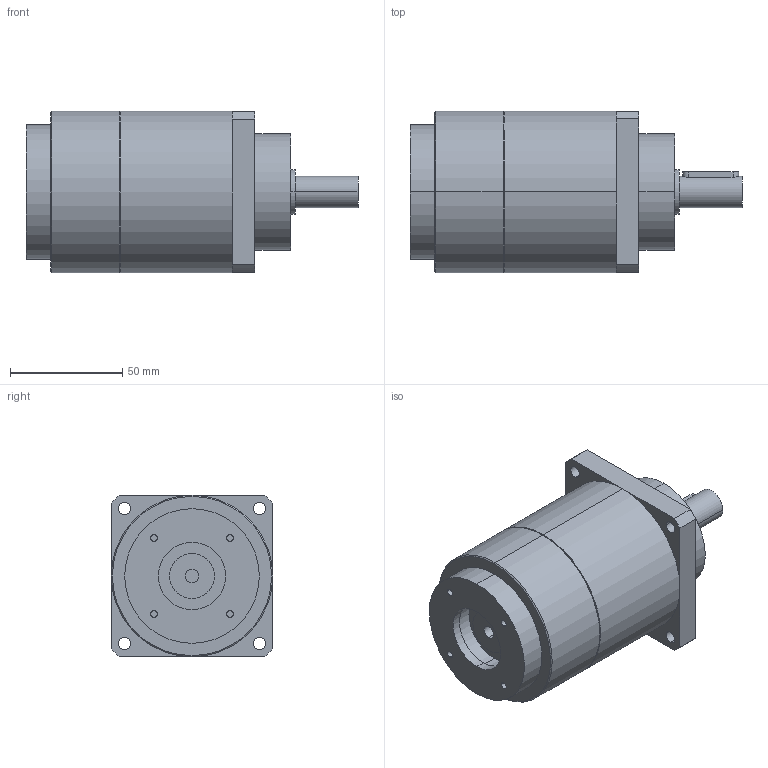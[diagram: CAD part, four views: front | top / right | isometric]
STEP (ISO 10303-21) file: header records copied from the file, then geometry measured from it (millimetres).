
FILE_DESCRIPTION(('CoCreate Modeling STEP Export'),'2;1');
FILE_NAME('GPT75_ig-9-12-16-20-25-28-35-40-50-70-100_14_B5T_6_P29.stp','2014-08-27T13:40:26',(''),(''),'CoCreate Modeling STEP processor for AP214 (Solid Model)','CoCreate Modeling 16.00C 25-Feb-2009 (C) Parametric Technology GmbH','');
FILE_SCHEMA(('AUTOMOTIVE_DESIGN { 1 0 10303 214 1 1 1 1 }'));
Length unit declared in the file: millimetre
Products named in the file (2): GPT75_ig-9-12-16-20-25-28-35-40-50-70-100_14_B5T_6_P29
Assembly tree (1 placements, depth 2):
  GPT75_ig-9-12-16-20-25-28-35-40-50-70-100_14_B5T_6_P29
    GPT75_ig-9-12-16-20-25-28-35-40-50-70-100_14_B5T_6_P29
Bounding box: 148 x 72 x 72 mm (x, y, z)
Volume: 441856 mm3; surface area: 40910.2 mm2
Topology: 1 solids, 1 shells, 75 faces, 177 edges, 118 vertices
Faces by surface type: cylinder 44, plane 27, cone 4
Entity records: 2271 total; most frequent: CARTESIAN_POINT 680, ORIENTED_EDGE 354, DIRECTION 278, EDGE_CURVE 177, VERTEX_POINT 118, AXIS2_PLACEMENT_3D 104, EDGE_LOOP 97, FACE_OUTER_BOUND 75
